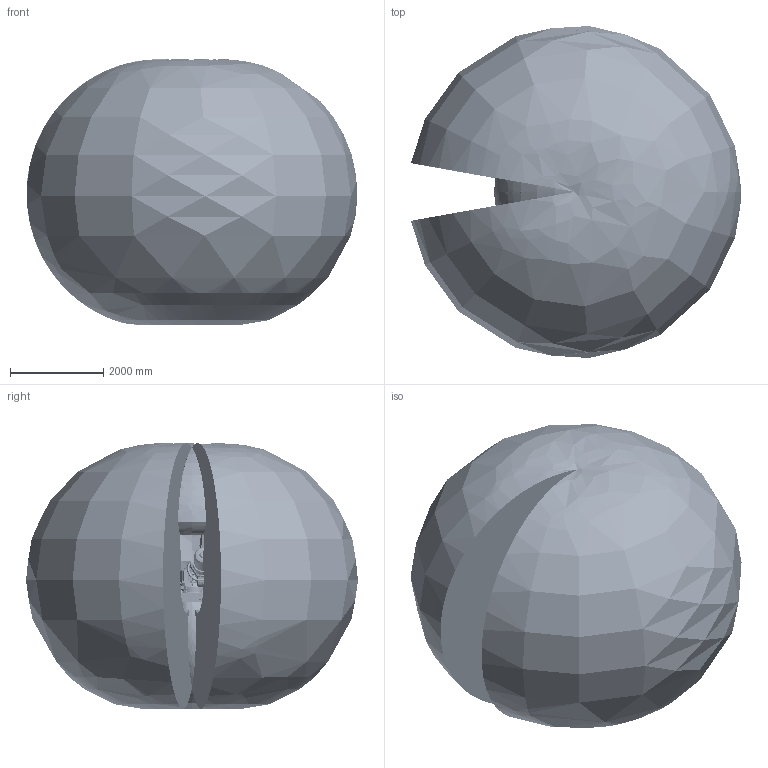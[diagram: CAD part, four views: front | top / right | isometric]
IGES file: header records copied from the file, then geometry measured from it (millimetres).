
Start section: SolidWorks IGES file using analytic representation for surfaces
Global section: file name: C:\Data\SAP_DOC\IRB6740_lightweight\6750S\IRB 6750S ASM\IRB6750S-LID-MH_220kg-360_OC_01_SW_J\IRB6750S-LID-MH_220kg-360_OC_01_IGES_J\IRB6750S-LID-MH_220kg-360_OC_01_ASM_CAD.igs; native system: SolidWorks 2024; preprocessor: SolidWorks 2024; author: SEJAOLS6; date: 260513.073153; units: millimetre
Bounding box: 7095.07 x 7121.88 x 5692.79 mm (x, y, z)
Surface area: 212731914.1 mm2 (no closed solid volume)
Topology: 0 solids, 0 shells, 10268 faces, 170953 edges, 170701 vertices
Faces by surface type: bspline 5897, revolution 4371
